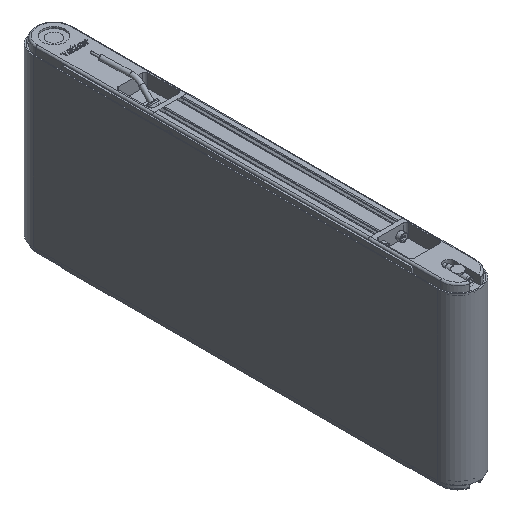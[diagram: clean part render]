
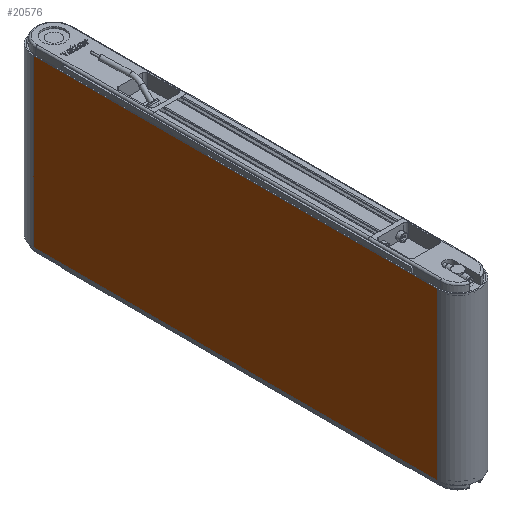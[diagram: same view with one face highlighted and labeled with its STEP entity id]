
A CAD part, isometric view. The second image highlights one B-rep face of the part: STEP entity #20576.
In plain terms, the highlighted planar face has unit normal (-1, 0, 0).
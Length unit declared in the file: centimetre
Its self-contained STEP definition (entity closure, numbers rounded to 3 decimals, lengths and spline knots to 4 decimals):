
#2168=FACE_OUTER_BOUND('',#3302,.T.);
#3302=EDGE_LOOP('',(#13806,#13807,#13808,#13809));
#4704=LINE('',#30289,#6309);
#4705=LINE('',#30294,#6310);
#4707=LINE('',#30298,#6312);
#4708=LINE('',#30299,#6313);
#6309=VECTOR('',#24738,1.);
#6310=VECTOR('',#24743,1.);
#6312=VECTOR('',#24747,1.);
#6313=VECTOR('',#24748,1.);
#8111=VERTEX_POINT('',#30283);
#8113=VERTEX_POINT('',#30287);
#8115=VERTEX_POINT('',#30292);
#8116=VERTEX_POINT('',#30297);
#10318=EDGE_CURVE('',#8111,#8113,#4704,.T.);
#10320=EDGE_CURVE('',#8115,#8113,#4705,.T.);
#10322=EDGE_CURVE('',#8115,#8116,#4707,.T.);
#10323=EDGE_CURVE('',#8116,#8111,#4708,.T.);
#13806=ORIENTED_EDGE('',*,*,#10322,.T.);
#13807=ORIENTED_EDGE('',*,*,#10323,.T.);
#13808=ORIENTED_EDGE('',*,*,#10318,.T.);
#13809=ORIENTED_EDGE('',*,*,#10320,.F.);
#18843=PLANE('',#21973);
#20576=ADVANCED_FACE('',(#2168),#18843,.T.);
#21973=AXIS2_PLACEMENT_3D('',#30296,#24745,#24746);
#24738=DIRECTION('',(0.,1.,0.));
#24743=DIRECTION('',(0.,0.,1.));
#24745=DIRECTION('center_axis',(-1.,0.,0.));
#24746=DIRECTION('ref_axis',(0.,0.,
1.));
#24747=DIRECTION('',(0.,-1.,0.));
#24748=DIRECTION('',(0.,0.,1.));
#30283=CARTESIAN_POINT('',(-2.33,-32.,9.25));
#30287=CARTESIAN_POINT('',(-2.33,13.,9.25));
#30289=CARTESIAN_POINT('',(-2.33,13.,9.25));
#30292=CARTESIAN_POINT('',(-2.33,13.,-9.25));
#30294=CARTESIAN_POINT('',(-2.33,13.,0.));
#30296=CARTESIAN_POINT('Origin',(-2.33,13.,0.));
#30297=CARTESIAN_POINT('',(-2.33,-32.,-9.25));
#30298=CARTESIAN_POINT('',(-2.33,13.,-9.25));
#30299=CARTESIAN_POINT('',(-2.33,-32.,0.));
